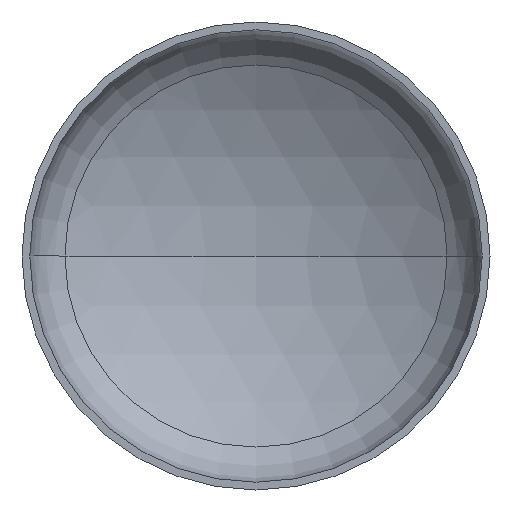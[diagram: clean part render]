
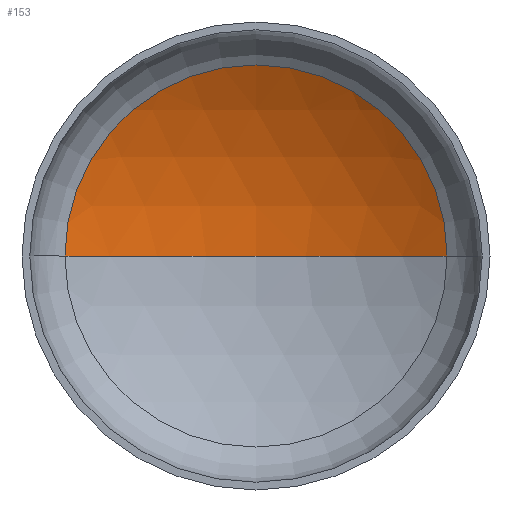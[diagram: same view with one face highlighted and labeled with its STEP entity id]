
A CAD part, front view. The second image highlights one B-rep face of the part: STEP entity #153.
In plain terms, the highlighted spherical face has radius 2400 mm.
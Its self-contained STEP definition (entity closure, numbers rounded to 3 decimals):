
#8 = ORIENTED_EDGE ( 'NONE', *, *, #351, .T. ) ;
#10 = CARTESIAN_POINT ( 'NONE',  ( 0., -1518.382, 0. ) ) ;
#13 = EDGE_LOOP ( 'NONE', ( #60, #8, #50 ) ) ;
#18 = AXIS2_PLACEMENT_3D ( 'NONE', #70, #359, #290 ) ;
#20 = VERTEX_POINT ( 'NONE', #348 ) ;
#21 = AXIS2_PLACEMENT_3D ( 'NONE', #147, #312, #399 ) ;
#24 = VERTEX_POINT ( 'NONE', #288 ) ;
#50 = ORIENTED_EDGE ( 'NONE', *, *, #345, .T. ) ;
#59 = AXIS2_PLACEMENT_3D ( 'NONE', #165, #166, #405 ) ;
#60 = ORIENTED_EDGE ( 'NONE', *, *, #354, .F. ) ;
#61 = AXIS2_PLACEMENT_3D ( 'NONE', #10, #189, #334 ) ;
#70 = CARTESIAN_POINT ( 'NONE',  ( 0., -1518.382, 0. ) ) ;
#72 = VERTEX_POINT ( 'NONE', #286 ) ;
#147 = CARTESIAN_POINT ( 'NONE',  ( 0., -1518.382, 0. ) ) ;
#153 = ADVANCED_FACE ( 'NONE', ( #371 ), #307, .F. ) ;
#165 = CARTESIAN_POINT ( 'NONE',  ( 0., 545.596, 0. ) ) ;
#166 = DIRECTION ( 'NONE',  ( 0., -1., 0. ) ) ;
#189 = DIRECTION ( 'NONE',  ( 0., 0., -1. ) ) ;
#274 = CIRCLE ( 'NONE', #18, 2400. ) ;
#286 = CARTESIAN_POINT ( 'NONE',  ( 1224.742, 545.596, 0. ) ) ;
#288 = CARTESIAN_POINT ( 'NONE',  ( -1224.742, 545.596, 0. ) ) ;
#290 = DIRECTION ( 'NONE',  ( 1., 0., 0. ) ) ;
#307 = SPHERICAL_SURFACE ( 'NONE', #61, 2400. ) ;
#312 = DIRECTION ( 'NONE',  ( 0., 0., -1. ) ) ;
#333 = CIRCLE ( 'NONE', #21, 2400. ) ;
#334 = DIRECTION ( 'NONE',  ( -1., 0., 0. ) ) ;
#339 = CIRCLE ( 'NONE', #59, 1224.742 ) ;
#345 = EDGE_CURVE ( 'NONE', #72, #24, #339, .T. ) ;
#348 = CARTESIAN_POINT ( 'NONE',  ( 0., 881.618, 0. ) ) ;
#351 = EDGE_CURVE ( 'NONE', #20, #72, #333, .T. ) ;
#354 = EDGE_CURVE ( 'NONE', #20, #24, #274, .T. ) ;
#359 = DIRECTION ( 'NONE',  ( 0., 0., 1. ) ) ;
#371 = FACE_OUTER_BOUND ( 'NONE', #13, .T. ) ;
#399 = DIRECTION ( 'NONE',  ( -1., 0., 0. ) ) ;
#405 = DIRECTION ( 'NONE',  ( 1., 0., 0. ) ) ;
